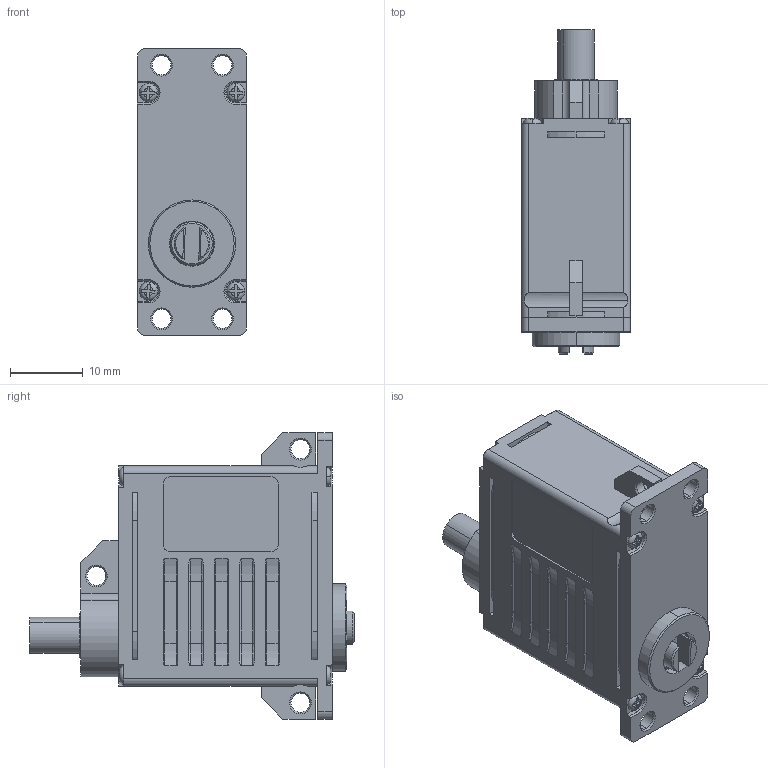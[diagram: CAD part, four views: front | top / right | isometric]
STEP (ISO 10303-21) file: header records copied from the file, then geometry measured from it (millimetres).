
FILE_DESCRIPTION (( 'STEP AP214' ), '1' );
FILE_NAME ('BLA15-06H-AZ1.STEP', '2026-10-21T09:26:07', ( '' ), ( '' ), 'SwSTEP 2.0', 'SolidWorks 2025', '' );
FILE_SCHEMA (( 'AUTOMOTIVE_DESIGN' ));
Length unit declared in the file: millimetre
Products named in the file (1): BLA15-06H-AZ1
Bounding box: 15 x 44.6 x 39.4 mm (x, y, z)
Volume: 14075.8 mm3; surface area: 5484.6 mm2
Topology: 1 solids, 9 shells, 660 faces, 1716 edges, 1108 vertices
Faces by surface type: plane 330, cylinder 190, cone 74, torus 66
Entity records: 20827 total; most frequent: CARTESIAN_POINT 4311, DIRECTION 3486, ORIENTED_EDGE 3432, EDGE_CURVE 1716, AXIS2_PLACEMENT_3D 1271, VERTEX_POINT 1108, LINE 944, VECTOR 944
